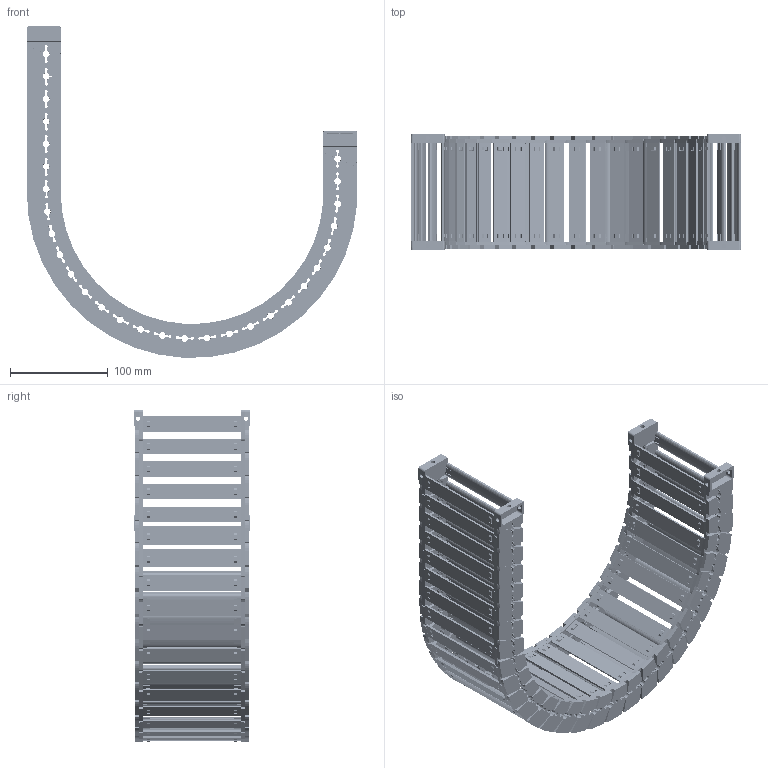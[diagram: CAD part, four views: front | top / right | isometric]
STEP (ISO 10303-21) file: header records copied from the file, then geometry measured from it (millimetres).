
FILE_DESCRIPTION((''),'2;1');
FILE_NAME('JY-28X100-R150_ASM','2026-05-07T14:50:35',('admin'),(''),'CREO PARAMETRIC BY PTC INC, 2021023','CREO PARAMETRIC BY PTC INC, 2021023','');
FILE_SCHEMA(('CONFIG_CONTROL_DESIGN'));
Length unit declared in the file: millimetre
Products named in the file (11): 28XL-L; 25-35XL-YP; 28XL-R; ASM0001_ASM; 28-LTT-A-L; 28-LTT-A-R; 28XL-LTT-A_ASM; 28-LTT-B-L; 28-LTT-B-R; 28XL-LTT-B_ASM; JY-28X100-R150_ASM
Assembly tree (42 placements, depth 3):
  JY-28X100-R150_ASM
    ASM0001_ASM  x28
      28XL-L
      25-35XL-YP
      28XL-R
    28XL-LTT-A_ASM
      28-LTT-A-L
      25-35XL-YP  x2
      28-LTT-A-R
    28XL-LTT-B_ASM
      28-LTT-B-L
      25-35XL-YP  x2
      28-LTT-B-R
Bounding box: 337.23 x 119 x 338.94 mm (x, y, z)
Volume: 612211.6 mm3; surface area: 439554.1 mm2
Topology: 120 solids, 120 shells, 9750 faces, 28988 edges, 19358 vertices
Faces by surface type: plane 6392, cone 1766, cylinder 1394, bspline 198
Entity records: 29175 total; most frequent: CARTESIAN_POINT 9500, ORIENTED_EDGE 4352, DIRECTION 3675, EDGE_CURVE 2176, VERTEX_POINT 1454, VECTOR 1365, LINE 1365, AXIS2_PLACEMENT_3D 1155
